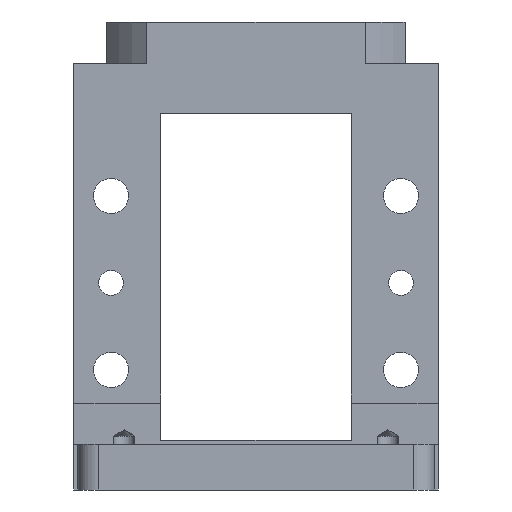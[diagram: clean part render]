
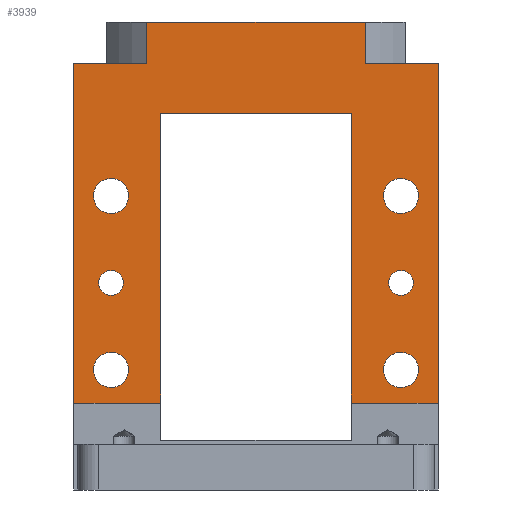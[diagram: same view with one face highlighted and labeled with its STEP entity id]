
A CAD part, front view. The second image highlights one B-rep face of the part: STEP entity #3939.
In plain terms, the highlighted planar face has unit normal (0, -1, 0).
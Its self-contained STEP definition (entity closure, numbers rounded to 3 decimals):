
#1=CARTESIAN_POINT('',(-35.,-34.,44.));
#2=DIRECTION('',(0.,1.,0.));
#3=DIRECTION('',(0.,0.,-1.));
#4=AXIS2_PLACEMENT_3D('',#1,#2,#3);
#6=CARTESIAN_POINT('',(-35.,-34.,44.));
#7=DIRECTION('',(0.,1.,0.));
#8=DIRECTION('',(0.,0.,1.));
#9=AXIS2_PLACEMENT_3D('',#6,#7,#8);
#11=CARTESIAN_POINT('',(35.,-34.,44.));
#12=DIRECTION('',(0.,1.,0.));
#13=DIRECTION('',(0.,0.,-1.));
#14=AXIS2_PLACEMENT_3D('',#11,#12,#13);
#16=CARTESIAN_POINT('',(35.,-34.,44.));
#17=DIRECTION('',(0.,1.,0.));
#18=DIRECTION('',(0.,0.,1.));
#19=AXIS2_PLACEMENT_3D('',#16,#17,#18);
#21=CARTESIAN_POINT('',(-35.,-34.,23.));
#22=DIRECTION('',(0.,1.,0.));
#23=DIRECTION('',(0.,0.,1.));
#24=AXIS2_PLACEMENT_3D('',#21,#22,#23);
#26=CARTESIAN_POINT('',(-35.,-34.,23.));
#27=DIRECTION('',(0.,1.,0.));
#28=DIRECTION('',(0.,0.,-1.));
#29=AXIS2_PLACEMENT_3D('',#26,#27,#28);
#31=CARTESIAN_POINT('',(35.,-34.,23.));
#32=DIRECTION('',(0.,1.,0.));
#33=DIRECTION('',(0.,0.,1.));
#34=AXIS2_PLACEMENT_3D('',#31,#32,#33);
#36=CARTESIAN_POINT('',(35.,-34.,23.));
#37=DIRECTION('',(0.,1.,0.));
#38=DIRECTION('',(0.,0.,-1.));
#39=AXIS2_PLACEMENT_3D('',#36,#37,#38);
#41=CARTESIAN_POINT('',(35.,-34.,65.));
#42=DIRECTION('',(0.,1.,0.));
#43=DIRECTION('',(0.,0.,1.));
#44=AXIS2_PLACEMENT_3D('',#41,#42,#43);
#46=CARTESIAN_POINT('',(35.,-34.,65.));
#47=DIRECTION('',(0.,1.,0.));
#48=DIRECTION('',(0.,0.,-1.));
#49=AXIS2_PLACEMENT_3D('',#46,#47,#48);
#51=CARTESIAN_POINT('',(-35.,-34.,65.));
#52=DIRECTION('',(0.,1.,0.));
#53=DIRECTION('',(0.,0.,1.));
#54=AXIS2_PLACEMENT_3D('',#51,#52,#53);
#56=CARTESIAN_POINT('',(-35.,-34.,65.));
#57=DIRECTION('',(0.,1.,0.));
#58=DIRECTION('',(0.,0.,-1.));
#59=AXIS2_PLACEMENT_3D('',#56,#57,#58);
#61=DIRECTION('',(-1.,0.,0.));
#62=VECTOR('',#61,52.65);
#63=CARTESIAN_POINT('',(26.325,-34.,107.));
#64=LINE('',#63,#62);
#65=DIRECTION('',(0.,0.,1.));
#66=VECTOR('',#65,82.);
#67=CARTESIAN_POINT('',(44.,-34.,15.));
#68=LINE('',#67,#66);
#69=DIRECTION('',(0.,0.,1.));
#70=VECTOR('',#69,70.);
#71=CARTESIAN_POINT('',(-23.,-34.,15.));
#72=LINE('',#71,#70);
#446=DIRECTION('',(0.,0.,1.));
#447=VECTOR('',#446,70.);
#448=CARTESIAN_POINT('',(23.,-34.,15.));
#449=LINE('',#448,#447);
#450=DIRECTION('',(-1.,0.,0.));
#451=VECTOR('',#450,21.);
#452=CARTESIAN_POINT('',(44.,-34.,15.));
#453=LINE('',#452,#451);
#467=DIRECTION('',(1.,0.,0.));
#468=VECTOR('',#467,17.675);
#469=CARTESIAN_POINT('',(26.325,-34.,97.));
#470=LINE('',#469,#468);
#621=DIRECTION('',(0.,0.,1.));
#622=VECTOR('',#621,10.);
#623=CARTESIAN_POINT('',(-26.325,-34.,97.));
#624=LINE('',#623,#622);
#643=DIRECTION('',(1.,0.,0.));
#644=VECTOR('',#643,17.675);
#645=CARTESIAN_POINT('',(-44.,-34.,97.));
#646=LINE('',#645,#644);
#675=DIRECTION('',(0.,0.,1.));
#676=VECTOR('',#675,82.);
#677=CARTESIAN_POINT('',(-44.,-34.,15.));
#678=LINE('',#677,#676);
#2834=DIRECTION('',(-1.,0.,0.));
#2835=VECTOR('',#2834,46.);
#2836=CARTESIAN_POINT('',(23.,-34.,85.));
#2837=LINE('',#2836,#2835);
#2863=DIRECTION('',(-1.,0.,0.));
#2864=VECTOR('',#2863,21.);
#2865=CARTESIAN_POINT('',(-23.,-34.,15.));
#2866=LINE('',#2865,#2864);
#2951=DIRECTION('',(0.,0.,-1.));
#2952=VECTOR('',#2951,10.);
#2953=CARTESIAN_POINT('',(26.325,-34.,107.));
#2954=LINE('',#2953,#2952);
#3131=CARTESIAN_POINT('',(-44.,-34.,15.));
#3132=CARTESIAN_POINT('',(-44.,-34.,97.));
#3133=VERTEX_POINT('',#3131);
#3134=VERTEX_POINT('',#3132);
#3135=CARTESIAN_POINT('',(-23.,-34.,15.));
#3136=VERTEX_POINT('',#3135);
#3137=CARTESIAN_POINT('',(-23.,-34.,85.));
#3138=VERTEX_POINT('',#3137);
#3139=CARTESIAN_POINT('',(23.,-34.,85.));
#3140=VERTEX_POINT('',#3139);
#3141=CARTESIAN_POINT('',(23.,-34.,15.));
#3142=VERTEX_POINT('',#3141);
#3143=CARTESIAN_POINT('',(44.,-34.,15.));
#3144=VERTEX_POINT('',#3143);
#3145=CARTESIAN_POINT('',(44.,-34.,97.));
#3146=VERTEX_POINT('',#3145);
#3147=CARTESIAN_POINT('',(26.325,-34.,97.));
#3148=VERTEX_POINT('',#3147);
#3149=CARTESIAN_POINT('',(26.325,-34.,107.));
#3150=VERTEX_POINT('',#3149);
#3151=CARTESIAN_POINT('',(-26.325,-34.,107.));
#3152=VERTEX_POINT('',#3151);
#3153=CARTESIAN_POINT('',(-26.325,-34.,97.));
#3154=VERTEX_POINT('',#3153);
#3586=CARTESIAN_POINT('',(35.,-34.,47.));
#3588=VERTEX_POINT('',#3586);
#3590=CARTESIAN_POINT('',(35.,-34.,41.));
#3592=VERTEX_POINT('',#3590);
#3594=CARTESIAN_POINT('',(-35.,-34.,41.));
#3596=VERTEX_POINT('',#3594);
#3598=CARTESIAN_POINT('',(-35.,-34.,47.));
#3600=VERTEX_POINT('',#3598);
#3673=CARTESIAN_POINT('',(-35.,-34.,18.75));
#3675=VERTEX_POINT('',#3673);
#3677=CARTESIAN_POINT('',(-35.,-34.,27.25));
#3679=VERTEX_POINT('',#3677);
#3689=CARTESIAN_POINT('',(35.,-34.,18.75));
#3691=VERTEX_POINT('',#3689);
#3693=CARTESIAN_POINT('',(35.,-34.,27.25));
#3695=VERTEX_POINT('',#3693);
#3705=CARTESIAN_POINT('',(35.,-34.,60.75));
#3707=VERTEX_POINT('',#3705);
#3709=CARTESIAN_POINT('',(35.,-34.,69.25));
#3711=VERTEX_POINT('',#3709);
#3721=CARTESIAN_POINT('',(-35.,-34.,60.75));
#3723=VERTEX_POINT('',#3721);
#3725=CARTESIAN_POINT('',(-35.,-34.,69.25));
#3727=VERTEX_POINT('',#3725);
#3873=CARTESIAN_POINT('',(43.,-34.,97.));
#3874=DIRECTION('',(0.,1.,0.));
#3875=DIRECTION('',(0.,0.,-1.));
#3876=AXIS2_PLACEMENT_3D('',#3873,#3874,#3875);
#3877=PLANE('',#3876);
#3879=ORIENTED_EDGE('',*,*,#3878,.T.);
#3881=ORIENTED_EDGE('',*,*,#3880,.T.);
#3883=ORIENTED_EDGE('',*,*,#3882,.T.);
#3885=ORIENTED_EDGE('',*,*,#3884,.F.);
#3887=ORIENTED_EDGE('',*,*,#3886,.T.);
#3889=ORIENTED_EDGE('',*,*,#3888,.T.);
#3891=ORIENTED_EDGE('',*,*,#3890,.F.);
#3893=ORIENTED_EDGE('',*,*,#3892,.T.);
#3895=ORIENTED_EDGE('',*,*,#3894,.T.);
#3897=ORIENTED_EDGE('',*,*,#3896,.T.);
#3899=ORIENTED_EDGE('',*,*,#3898,.F.);
#3901=ORIENTED_EDGE('',*,*,#3900,.T.);
#3902=EDGE_LOOP('',(#3879,#3881,#3883,#3885,#3887,#3889,#3891,#3893,#3895,#3897,
#3899,#3901));
#3903=FACE_OUTER_BOUND('',#3902,.F.);
#3904=ORIENTED_EDGE('',*,*,#3862,.F.);
#3906=ORIENTED_EDGE('',*,*,#3905,.F.);
#3907=EDGE_LOOP('',(#3904,#3906));
#3908=FACE_BOUND('',#3907,.F.);
#3910=ORIENTED_EDGE('',*,*,#3909,.F.);
#3912=ORIENTED_EDGE('',*,*,#3911,.F.);
#3913=EDGE_LOOP('',(#3910,#3912));
#3914=FACE_BOUND('',#3913,.F.);
#3916=ORIENTED_EDGE('',*,*,#3915,.F.);
#3918=ORIENTED_EDGE('',*,*,#3917,.F.);
#3919=EDGE_LOOP('',(#3916,#3918));
#3920=FACE_BOUND('',#3919,.F.);
#3922=ORIENTED_EDGE('',*,*,#3921,.F.);
#3924=ORIENTED_EDGE('',*,*,#3923,.F.);
#3925=EDGE_LOOP('',(#3922,#3924));
#3926=FACE_BOUND('',#3925,.F.);
#3928=ORIENTED_EDGE('',*,*,#3927,.F.);
#3930=ORIENTED_EDGE('',*,*,#3929,.F.);
#3931=EDGE_LOOP('',(#3928,#3930));
#3932=FACE_BOUND('',#3931,.F.);
#3934=ORIENTED_EDGE('',*,*,#3933,.F.);
#3936=ORIENTED_EDGE('',*,*,#3935,.F.);
#3937=EDGE_LOOP('',(#3934,#3936));
#3938=FACE_BOUND('',#3937,.F.);
#5=CIRCLE('',#4,3.);
#10=CIRCLE('',#9,3.);
#15=CIRCLE('',#14,3.);
#20=CIRCLE('',#19,3.);
#25=CIRCLE('',#24,4.25);
#30=CIRCLE('',#29,4.25);
#35=CIRCLE('',#34,4.25);
#40=CIRCLE('',#39,4.25);
#45=CIRCLE('',#44,4.25);
#50=CIRCLE('',#49,4.25);
#55=CIRCLE('',#54,4.25);
#60=CIRCLE('',#59,4.25);
#3862=EDGE_CURVE('',#3592,#3588,#15,.T.);
#3878=EDGE_CURVE('',#3133,#3134,#678,.T.);
#3880=EDGE_CURVE('',#3134,#3154,#646,.T.);
#3882=EDGE_CURVE('',#3154,#3152,#624,.T.);
#3884=EDGE_CURVE('',#3150,#3152,#64,.T.);
#3886=EDGE_CURVE('',#3150,#3148,#2954,.T.);
#3888=EDGE_CURVE('',#3148,#3146,#470,.T.);
#3890=EDGE_CURVE('',#3144,#3146,#68,.T.);
#3892=EDGE_CURVE('',#3144,#3142,#453,.T.);
#3894=EDGE_CURVE('',#3142,#3140,#449,.T.);
#3896=EDGE_CURVE('',#3140,#3138,#2837,.T.);
#3898=EDGE_CURVE('',#3136,#3138,#72,.T.);
#3900=EDGE_CURVE('',#3136,#3133,#2866,.T.);
#3905=EDGE_CURVE('',#3588,#3592,#20,.T.);
#3909=EDGE_CURVE('',#3679,#3675,#25,.T.);
#3911=EDGE_CURVE('',#3675,#3679,#30,.T.);
#3915=EDGE_CURVE('',#3695,#3691,#35,.T.);
#3917=EDGE_CURVE('',#3691,#3695,#40,.T.);
#3921=EDGE_CURVE('',#3711,#3707,#45,.T.);
#3923=EDGE_CURVE('',#3707,#3711,#50,.T.);
#3927=EDGE_CURVE('',#3727,#3723,#55,.T.);
#3929=EDGE_CURVE('',#3723,#3727,#60,.T.);
#3933=EDGE_CURVE('',#3596,#3600,#5,.T.);
#3935=EDGE_CURVE('',#3600,#3596,#10,.T.);
#3939=ADVANCED_FACE('',(#3903,#3908,#3914,#3920,#3926,#3932,#3938),#3877,.F.);
